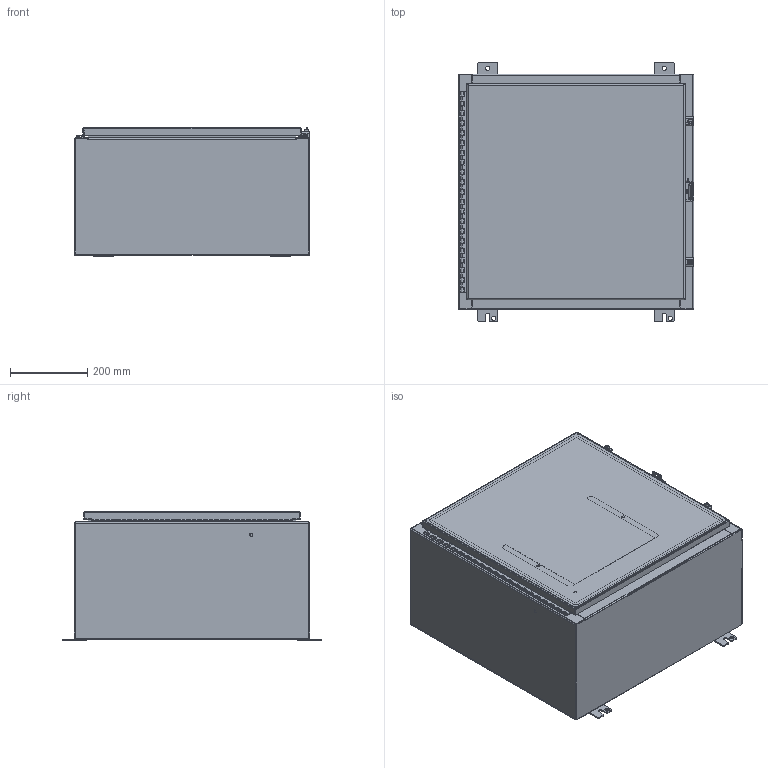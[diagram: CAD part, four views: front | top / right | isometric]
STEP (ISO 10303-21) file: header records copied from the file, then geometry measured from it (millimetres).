
FILE_DESCRIPTION((''),'2;1');
FILE_NAME('MODEL-303_ASM','2021-04-27T14:50:43',('Tony.Gonzales'),('SAGINAW CONTROL & ENGINEERING'),'CREO PARAMETRIC BY PTC INC, 2017260','CREO PARAMETRIC BY PTC INC, 2017260','');
FILE_SCHEMA(('AUTOMOTIVE_DESIGN { 1 0 10303 214 1 1 1 1 }'));
Length unit declared in the file: inch
Products named in the file (29): MODEL-303-BDY; MODEL-303-TP; MODEL-303-BTM; MODEL-303-DR; 100837; 100882; 111267; 118919_DR; 118919_PIN; 118919_BX; 118919_STUD; 118919_ASM; 100897; MODEL-303-DOOR-GASKET; 128600; 102483; MODEL-303-DOOR-ASSY_ASM; 102211; 101653; 121452; 120131_BASE; 120131_CLAMP; 120131_SCREW; 120131_CLOSED_ASM; 120134; SUBPANEL; 100904; SUBPANEL-SUBASSEMBLY_ASM; MODEL-303_ASM
Assembly tree (51 placements, depth 4):
  MODEL-303_ASM
    MODEL-303-BDY
    MODEL-303-TP
    MODEL-303-BTM
    MODEL-303-DOOR-ASSY_ASM
      MODEL-303-DR
      100837  x3
      100882  x2
      111267
      118919_ASM
        118919_DR
        118919_PIN
        118919_BX
        118919_STUD  x4
      100897  x4
      MODEL-303-DOOR-GASKET
      128600
      102483
    102211  x4
    100837
    101653  x4
    121452
    120131_CLOSED_ASM  x2
      120131_BASE
      120131_CLAMP
      120131_SCREW
    100882  x3
    120134
    SUBPANEL-SUBASSEMBLY_ASM
      SUBPANEL
      100904  x4
Bounding box: 609.6 x 673.1 x 335.48 mm (x, y, z)
Volume: 4531164.3 mm3; surface area: 4222994.8 mm2
Topology: 48 solids, 48 shells, 3445 faces, 8920 edges, 5606 vertices
Faces by surface type: plane 1354, bspline 953, cylinder 751, torus 210, sphere 93, cone 84
Entity records: 94733 total; most frequent: CARTESIAN_POINT 30773, ORIENTED_EDGE 9214, DIRECTION 8219, PRESENTATION_STYLE_ASSIGNMENT 4735, STYLED_ITEM 4735, CURVE_STYLE 4607, EDGE_CURVE 4607, VERTEX_POINT 2896
